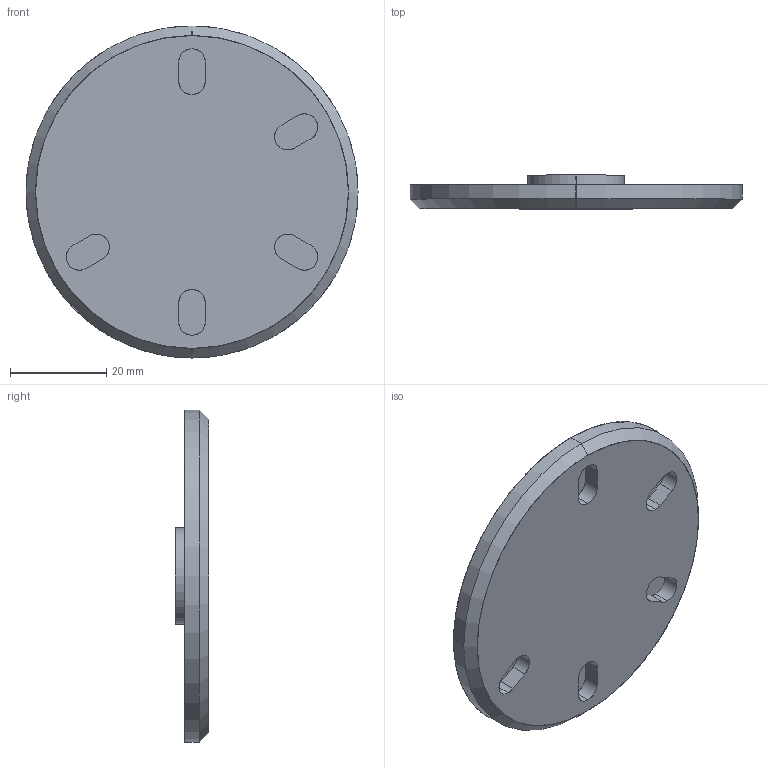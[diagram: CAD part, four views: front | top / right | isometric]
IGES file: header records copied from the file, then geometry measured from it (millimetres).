
Start section: SolidWorks IGES file using analytic representation for surfaces
Global section: file name: C:\Users\Centika\Documents\Rakumba Internship\Solidworks Lightweight\Cilon_Surface_Mount_Fixed.IGS; native system: SolidWorks 2017; preprocessor: SolidWorks 2017; author: Centika; date: 181204.163942; units: millimetre
Bounding box: 69 x 7 x 69 mm (x, y, z)
Surface area: 8871.3 mm2 (no closed solid volume)
Topology: 0 solids, 0 shells, 39 faces, 668 edges, 668 vertices
Faces by surface type: revolution 21, bspline 18
